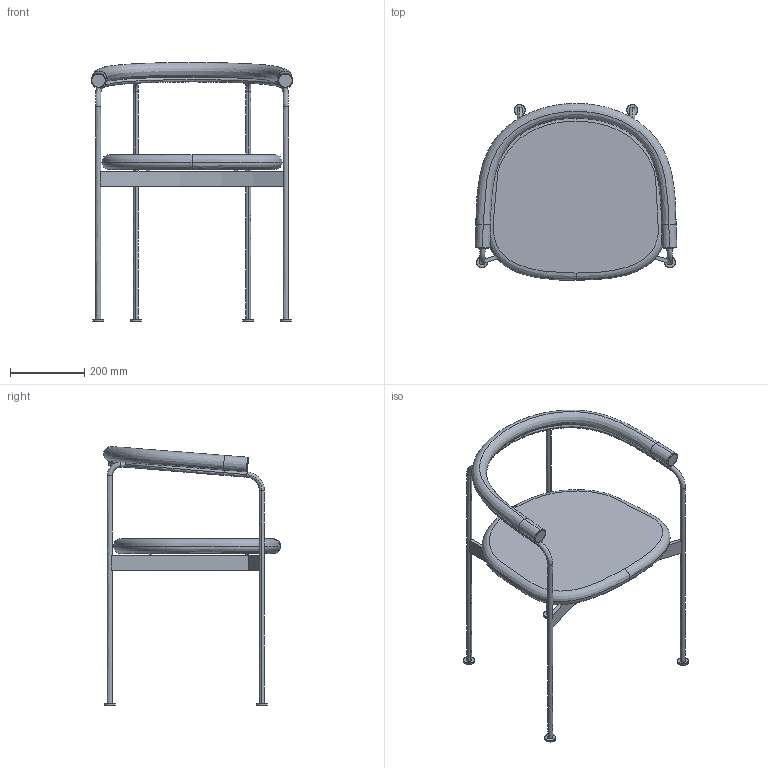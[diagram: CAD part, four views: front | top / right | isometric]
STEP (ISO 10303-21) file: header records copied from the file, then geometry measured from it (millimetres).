
FILE_DESCRIPTION(/* description */ (''),/* implementation_level */ '2;1');
FILE_NAME(/* name */ '2021.11.15 BAIA CHAIR - BACKREST CURVATURE ADJUSTMENT',/* time_stamp */ '2021-11-15T13:17:19+01:00',/* author */ (''),/* organization */ (''),/* preprocessor_version */ 'ST-DEVELOPER v15',/* originating_system */ '',/* authorisation */ '');
FILE_SCHEMA (('AUTOMOTIVE_DESIGN'));
Length unit declared in the file: millimetre
Products named in the file (1): Document
Bounding box: 544.14 x 477.06 x 698.54 mm (x, y, z)
Volume: 9623789.3 mm3; surface area: 866694.6 mm2
Topology: 14 solids, 14 shells, 144 faces, 298 edges, 191 vertices
Faces by surface type: bspline 99, plane 45
Entity records: 9115 total; most frequent: CARTESIAN_POINT 7193, ORIENTED_EDGE 588, EDGE_CURVE 294, VERTEX_POINT 183, EDGE_LOOP 149, ADVANCED_FACE 144, FACE_OUTER_BOUND 144, B_SPLINE_CURVE_WITH_KNOTS 79
